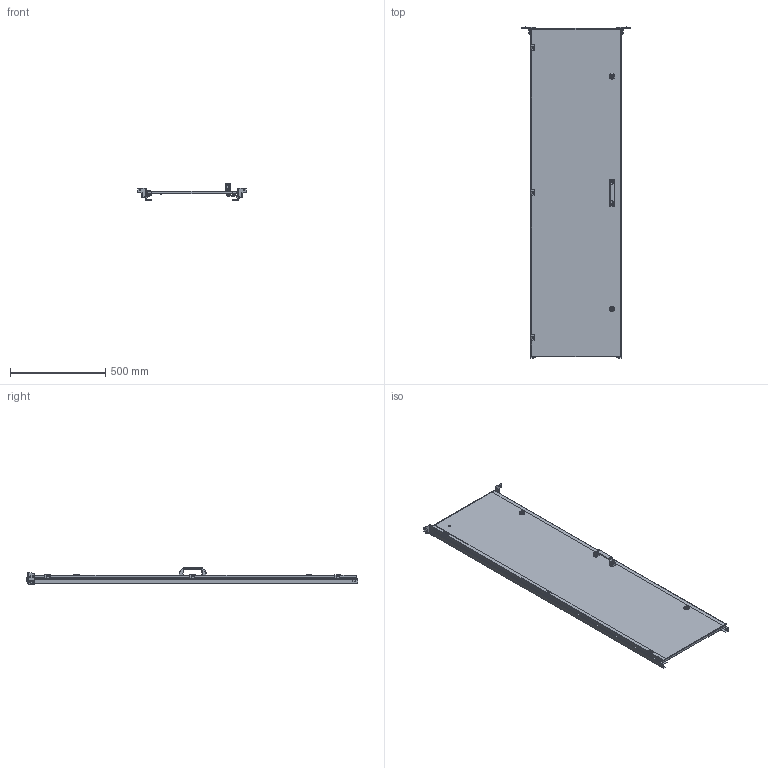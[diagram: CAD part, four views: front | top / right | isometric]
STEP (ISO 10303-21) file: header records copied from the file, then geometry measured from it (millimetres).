
FILE_DESCRIPTION (( 'STEP AP203' ), '1' );
FILE_NAME ('ID 180.60 ﾑﾁ ﾄ粢 粹澵.STEP', '2025-01-23T11:57:17', ( '' ), ( '' ), 'SwSTEP 2.0', 'SolidWorks 2022', '' );
FILE_SCHEMA (( 'CONFIG_CONTROL_DESIGN' ));
Length unit declared in the file: millimetre
Products named in the file (5): MP 01.001-01 Держатель монтажной панели верхний; ID 180.60 СБ Дверь внутренняя; ID 180.80 Дверь внутренняя_ID 180.60 Дверь внутренняя; MP 01.001 Держатель монтажной панели верхний_По умолчаниюSM-FLAT-PATTERN; Винт специальный самонарезающий оц. 4,8x11_Винт специальный самонарезающий оц. 4,8x11
Assembly tree (7 placements, depth 2):
  ID 180.60 СБ Дверь внутренняя
    ID 180.80 Дверь внутренняя_ID 180.60 Дверь внутренняя
    MP 01.001 Держатель монтажной панели верхний_По умолчаниюSM-FLAT-PATTERN
    MP 01.001-01 Держатель монтажной панели верхний
    Винт специальный самонарезающий оц. 4,8x11_Винт специальный самонарезающий оц. 4,8x11  x4
Bounding box: 570 x 1739.1 x 88.74 mm (x, y, z)
Volume: 1883083.1 mm3; surface area: 2392621 mm2
Topology: 35 solids, 35 shells, 1723 faces, 4455 edges, 2814 vertices
Faces by surface type: plane 788, cylinder 516, cone 229, bspline 94, sphere 68, torus 28
Entity records: 50937 total; most frequent: CARTESIAN_POINT 13169, ORIENTED_EDGE 7984, DIRECTION 7553, EDGE_CURVE 3992, AXIS2_PLACEMENT_3D 2762, VERTEX_POINT 2526, VECTOR 2029, LINE 2029
